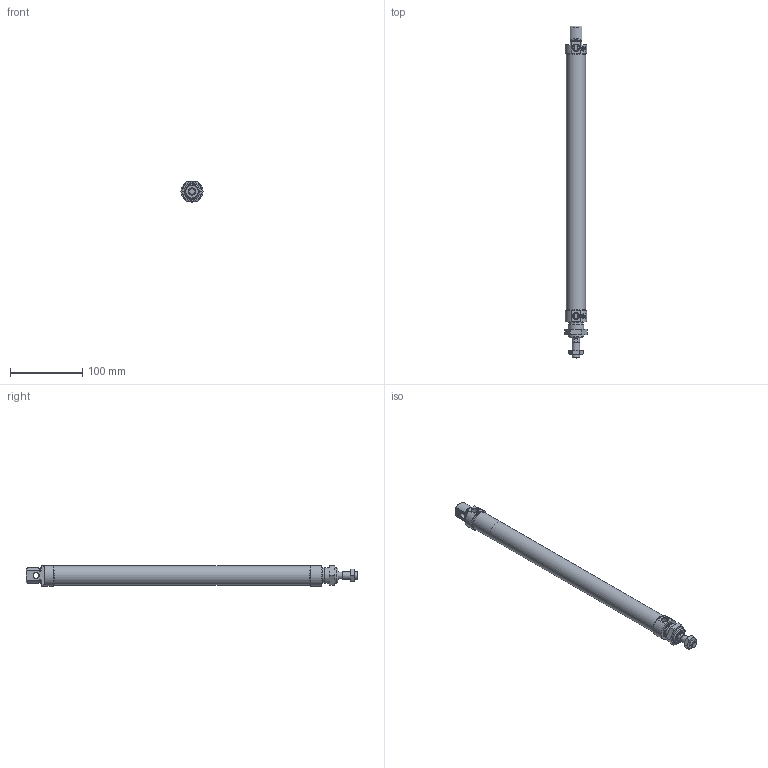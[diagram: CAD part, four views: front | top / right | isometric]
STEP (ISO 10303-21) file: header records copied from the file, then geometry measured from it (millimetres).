
FILE_DESCRIPTION(/* description */ ('Unknown'),/* implementation_level */ '2;1');
FILE_NAME(/* name */ 'RDM 25_320',/* time_stamp */ '2024-08-28T12:47:39+02:00',/* author */ ('Unknown'),/* organization */ ('Unknown'),/* preprocessor_version */ 'ST-DEVELOPER v16.7',/* originating_system */ 'Solid Edge',/* authorisation */ 'Unknown');
FILE_SCHEMA (('AUTOMOTIVE_DESIGN {1 0 10303 214 3 1 1}'));
Length unit declared in the file: millimetre
Products named in the file (7): RDM 25_320; Profilrohr; Kolbenstange; Kit_1; Kit_2; Mutter_1; Mutter_2
Assembly tree (6 placements, depth 2):
  RDM 25_320
    Profilrohr
    Kolbenstange
    Kit_1
    Kit_2
    Mutter_1
    Mutter_2
Bounding box: 31.18 x 460 x 28.45 mm (x, y, z)
Volume: 104768.1 mm3; surface area: 88538.7 mm2
Topology: 6 solids, 8 shells, 195 faces, 429 edges, 271 vertices
Faces by surface type: plane 76, cylinder 55, cone 53, torus 9, bspline 2
Full cylindrical faces by diameter (mm): 1.75 x2, 1.8 x2, 3.4 x2, 3.5 x2, 8 x1, 8.5 x1, 8.55 x1, 8.56 x1, 8.566 x3, 8.647 x1, 10 x2, 10.5 x2, 11.1 x1, 12 x1, 14 x1, 14.1 x1, 16.1 x1, 16.2 x1, 19.7 x1, 20.376 x1, 22 x2, 25 x2, 26.5 x1, 27 x2
Entity records: 6379 total; most frequent: CARTESIAN_POINT 1129, DIRECTION 815, ORIENTED_EDGE 656, AXIS2_PLACEMENT_3D 360, EDGE_CURVE 328, FACE_BOUND 303, EDGE_LOOP 301, VERTEX_POINT 247
